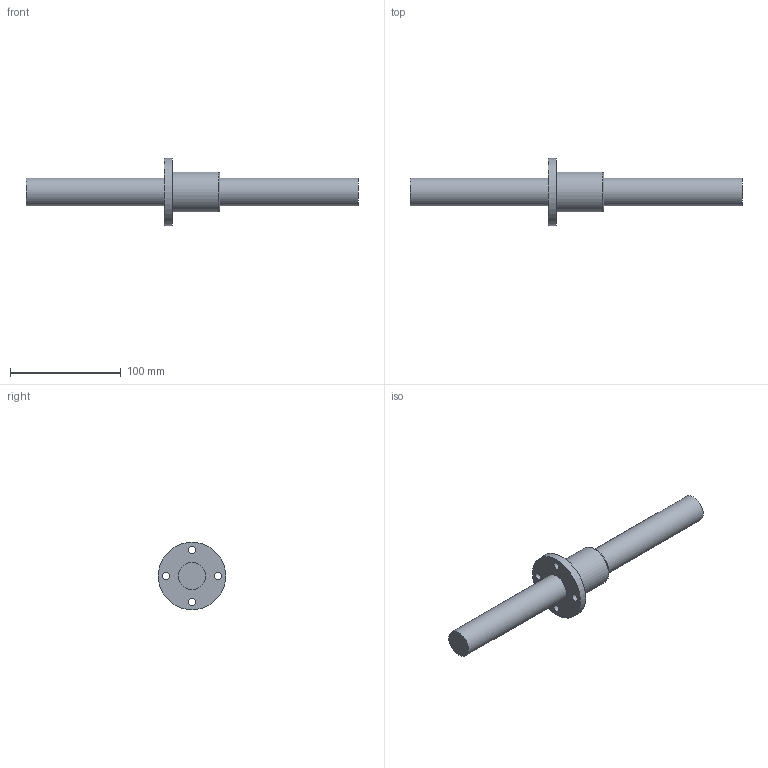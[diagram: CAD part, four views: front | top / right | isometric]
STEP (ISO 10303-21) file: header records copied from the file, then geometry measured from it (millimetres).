
FILE_DESCRIPTION((''),'2;1');
FILE_NAME('D:\製品 (図面)\カタログ用3D\ネジ関連\STEP形式\TMF\TMF25.stp','2010-06-02T14:59:47',('Tsuchiya'),(''),'Autodesk Inventor 10','Autodesk Inventor 10','');
FILE_SCHEMA(('AUTOMOTIVE_DESIGN { 1 0 10303 214 1 1 1 1 }'));
Length unit declared in the file: millimetre
Products named in the file (3): TMF25; TMF251; TMF252
Assembly tree (2 placements, depth 2):
  TMF25
    TMF251
    TMF252
Bounding box: 300 x 61 x 61 mm (x, y, z)
Volume: 185938.9 mm3; surface area: 39747.4 mm2
Topology: 2 solids, 2 shells, 15 faces, 32 edges, 22 vertices
Faces by surface type: cylinder 8, plane 5, torus 1, bspline 1
Full cylindrical faces by diameter (mm): 6.6 x4, 25 x2, 36 x1, 61 x1
Entity records: 470 total; most frequent: CARTESIAN_POINT 100, DIRECTION 74, AXIS2_PLACEMENT_3D 37, ORIENTED_EDGE 36, EDGE_LOOP 36, FACE_BOUND 21, VERTEX_POINT 18, CIRCLE 18
